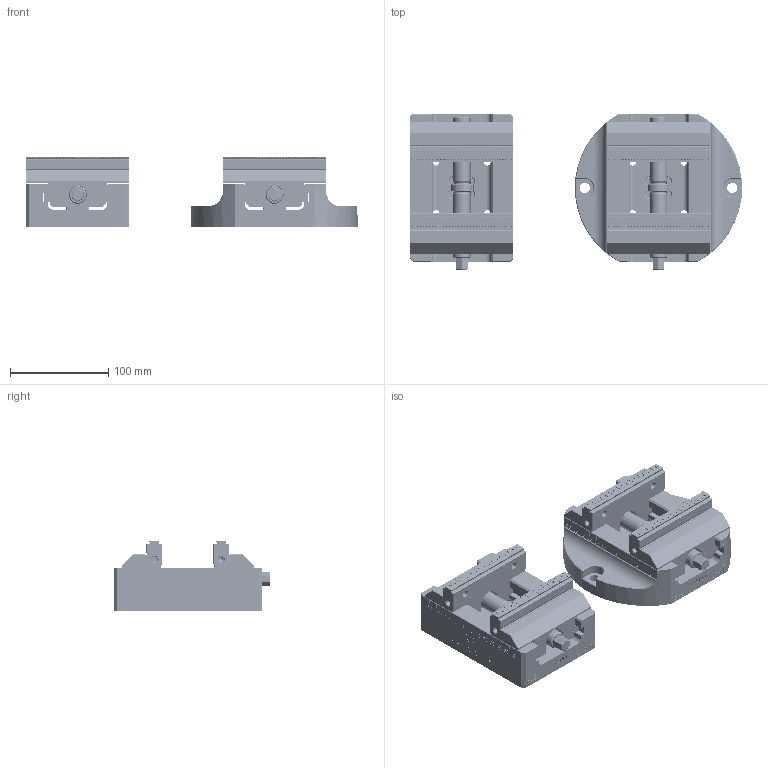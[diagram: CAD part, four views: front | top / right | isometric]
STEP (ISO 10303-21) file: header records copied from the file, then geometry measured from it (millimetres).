
FILE_DESCRIPTION(/* description */ (''),/* implementation_level */ '2;1');
FILE_NAME(/* name */ 'H105',/* time_stamp */ '2025-11-14T11:34:33+08:00',/* author */ (''),/* organization */ (''),/* preprocessor_version */ 'ST-DEVELOPER v11',/* originating_system */ 'SIEMENS PLM Software NX 7.0',/* authorisation */ '');
FILE_SCHEMA (('CONFIG_CONTROL_DESIGN'));
Products named in the file (1): Admi7216p6c5
Bounding box: 337.43 x 158.5 x 72 mm (x, y, z)
Volume: 1516870.7 mm3; surface area: 269261.3 mm2
Topology: 10 solids, 10 shells, 5986 faces, 15681 edges, 10416 vertices
Faces by surface type: plane 4012, extrusion 786, cylinder 762, cone 404, torus 16, bspline 6
Full cylindrical faces by diameter (mm): 5 x24, 6 x18, 6.7 x8, 8 x12, 8.5 x6, 10 x4, 10.5 x2, 12 x8, 14 x6, 16.005 x4, 16.6 x4, 18 x4, 22 x2
Entity records: 209316 total; most frequent: CARTESIAN_POINT 66461, ORIENTED_EDGE 30806, DIRECTION 25669, EDGE_CURVE 15403, VECTOR 11371, LINE 10585, VERTEX_POINT 10334, AXIS2_PLACEMENT_3D 7149
